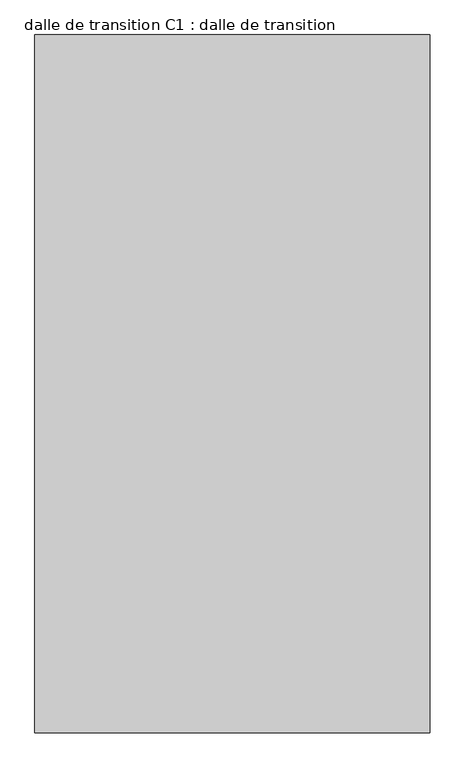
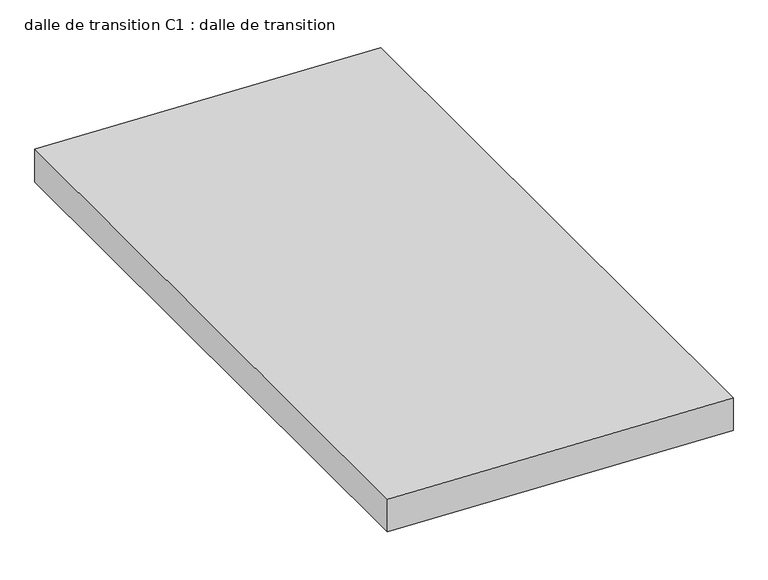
"""IFC4 building model written with IfcOpenShell, lengths in millimetres: proxy geometry, dalle de transition C1 : dalle de transition."""

from ifc_helpers import new_model, si_unit, frame, origin, place, context, project, spatial, polyline, outline, extrude, source, transform, mapped, element, save


def dalle_de_transition_c1_dalle_de_transition_7af641cf(model_context):
    return source(origin(), model_context, "Body", "SweptSolid", [
        extrude(outline(polyline([(4410.0, 7140.0), (4110.0, 7140.0), (3990.0, 10140.0), (4290.0, 10140.0), (4410.0, 7140.0)])), frame((0.0, -2650.0, 0.0), z_axis=(0.0, 1.0, 0.0), x_axis=(0.0, 0.0, 1.0)), (0.0, 0.0, 1.0), 5300.0),
    ])


if __name__ == "__main__":
    model = new_model("IFC4")
    model_context = context("Model", 3, world=origin())
    ifc_project = project(units=[si_unit("LENGTHUNIT", "METRE", prefix="MILLI")], contexts=[model_context])
    site = spatial("IfcSite", under=ifc_project)
    building = spatial("IfcBuilding", under=site)
    placement = place(None, origin())
    dalle_de_transition_c1_dalle_de_transition_shape = dalle_de_transition_c1_dalle_de_transition_7af641cf(model_context)
    element("IfcBuildingElementProxy", 1, Name="dalle de transition C1 : dalle de transition", ObjectType="dalle de transition C1 : dalle de transition", at=placement, inside=building, context=model_context, shape_type="MappedRepresentation", body=[
        mapped(dalle_de_transition_c1_dalle_de_transition_shape, transform((0.0, 0.0, 0.0), x_axis=(1.0, 0.0, 0.0), y_axis=(0.0, 1.0, 0.0), z_axis=(0.0, 0.0, 1.0))),
    ])
    save(model, "model.ifc")
